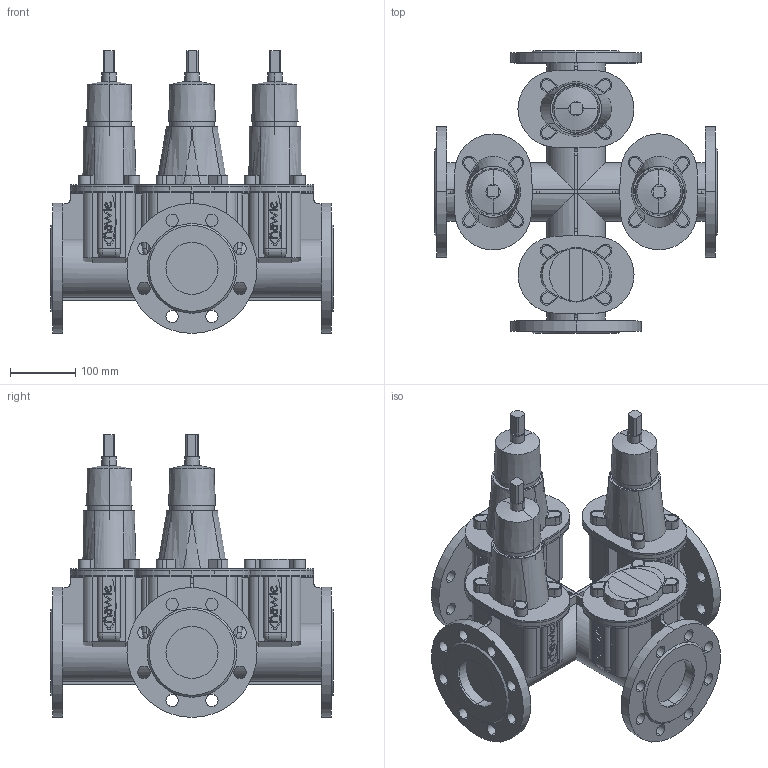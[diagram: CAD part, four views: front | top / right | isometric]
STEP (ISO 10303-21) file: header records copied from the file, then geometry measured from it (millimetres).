
FILE_DESCRIPTION(('STEP AP214'),'1');
FILE_NAME('S:/EK/USER/CAT6/3DHomepage_27-04-2012/neu_23-01-2013/4400E2/4400E2_PN16_DN80_3_9-12-3-B.STP','2013-02-22T08:13:00',(' '),(' '),'Spatial InterOp 3D',' ',' ');
FILE_SCHEMA(('automotive_design'));
Length unit declared in the file: millimetre
Products named in the file (176): 3D-Objekt
Bounding box: 435 x 435 x 435 mm (x, y, z)
Volume: 15687961 mm3; surface area: 1964372.7 mm2
Topology: 176 solids, 176 shells, 1610 faces, 3740 edges, 2490 vertices
Faces by surface type: plane 914, cylinder 612, bspline 40, cone 28, torus 16
Entity records: 63810 total; most frequent: CARTESIAN_POINT 8696, DIRECTION 8636, ORIENTED_EDGE 7480, EDGE_CURVE 3740, AXIS2_PLACEMENT_3D 3150, VERTEX_POINT 2490, LINE 2336, VECTOR 2336
